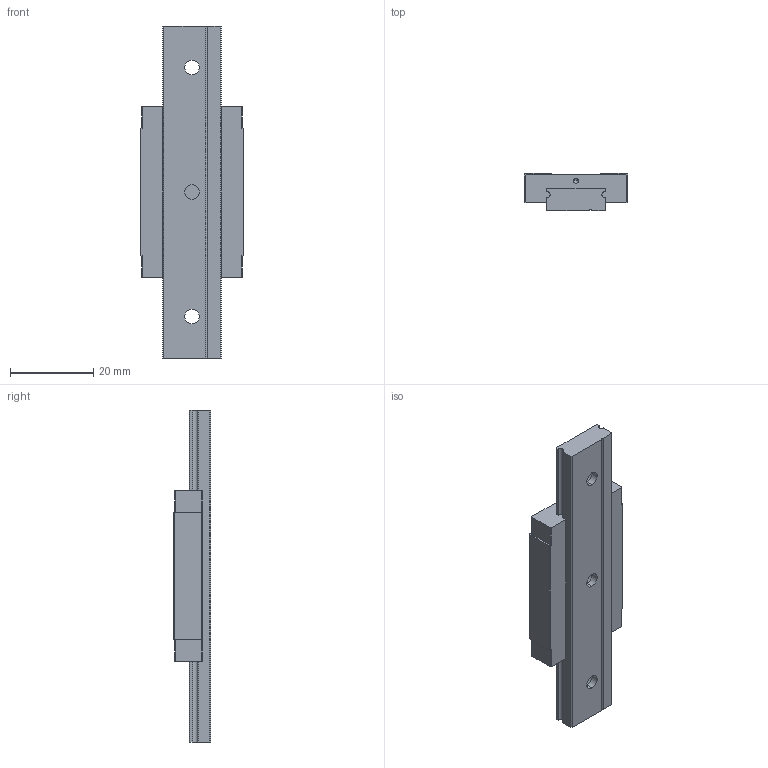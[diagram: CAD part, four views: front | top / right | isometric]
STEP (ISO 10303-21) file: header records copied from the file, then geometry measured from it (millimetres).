
FILE_DESCRIPTION (( 'STEP AP214' ), '1' );
FILE_NAME ('2.1064 Lineaarikelkka MGW7H.STEP', '2025-09-19T06:56:10', ( '' ), ( '' ), 'SwSTEP 2.0', 'SolidWorks 2025', '' );
FILE_SCHEMA (( 'AUTOMOTIVE_DESIGN' ));
Length unit declared in the file: millimetre
Products named in the file (1): 2.1064 Lineaarikelkka MGW7H
Bounding box: 25 x 9 x 80 mm (x, y, z)
Volume: 10442.6 mm3; surface area: 6887.3 mm2
Topology: 2 solids, 2 shells, 98 faces, 261 edges, 164 vertices
Faces by surface type: plane 53, cylinder 33, cone 12
Entity records: 4073 total; most frequent: DIRECTION 513, CARTESIAN_POINT 512, ORIENTED_EDGE 498, EDGE_CURVE 249, VECTOR 183, LINE 183, AXIS2_PLACEMENT_3D 165, VERTEX_POINT 164
